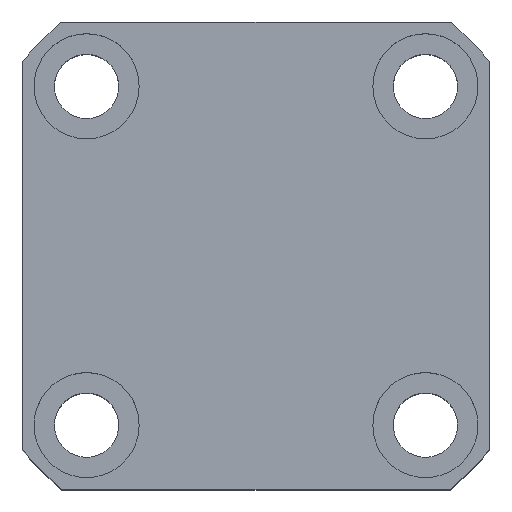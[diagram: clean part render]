
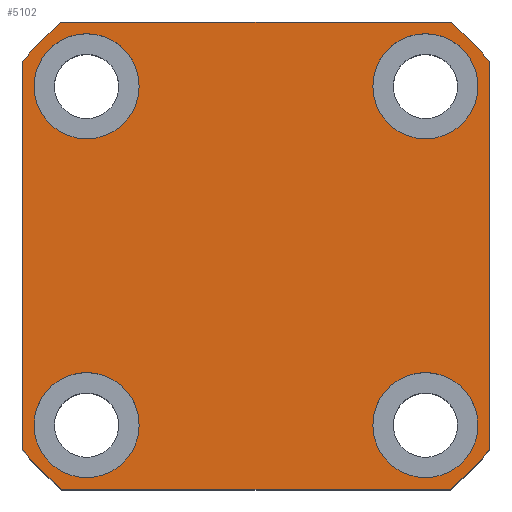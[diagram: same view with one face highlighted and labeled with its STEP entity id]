
A CAD part, top view. The second image highlights one B-rep face of the part: STEP entity #5102.
In plain terms, the highlighted planar face has unit normal (0, 0, 1).
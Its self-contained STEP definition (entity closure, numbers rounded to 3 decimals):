
#25 = DIRECTION ( 'NONE',  ( 0., 0., 1. ) ) ;
#72 = CARTESIAN_POINT ( 'NONE',  ( 29., 29., 32.5 ) ) ;
#146 = CARTESIAN_POINT ( 'NONE',  ( -38., -29., 32.5 ) ) ;
#164 = AXIS2_PLACEMENT_3D ( 'NONE', #8882, #2214, #3875 ) ;
#201 = CIRCLE ( 'NONE', #9797, 52. ) ;
#247 = VERTEX_POINT ( 'NONE', #7543 ) ;
#341 = DIRECTION ( 'NONE',  ( 1., 0., 0. ) ) ;
#350 = EDGE_LOOP ( 'NONE', ( #2302, #2135 ) ) ;
#366 = CARTESIAN_POINT ( 'NONE',  ( -20., 29., 32.5 ) ) ;
#566 = EDGE_CURVE ( 'NONE', #3537, #9563, #4208, .T. ) ;
#580 = FACE_OUTER_BOUND ( 'NONE', #902, .T. ) ;
#645 = ORIENTED_EDGE ( 'NONE', *, *, #4979, .F. ) ;
#663 = DIRECTION ( 'NONE',  ( 0., 0., 1. ) ) ;
#699 = LINE ( 'NONE', #4906, #8307 ) ;
#712 = DIRECTION ( 'NONE',  ( 0., 0., 1. ) ) ;
#727 = DIRECTION ( 'NONE',  ( -1., 0., 0. ) ) ;
#752 = DIRECTION ( 'NONE',  ( 1., 0., 0. ) ) ;
#831 = CIRCLE ( 'NONE', #8447, 9. ) ;
#902 = EDGE_LOOP ( 'NONE', ( #10343, #8073, #5430, #5608, #8731, #1014, #4810, #7145 ) ) ;
#931 = CARTESIAN_POINT ( 'NONE',  ( 40., 33.226, 32.5 ) ) ;
#975 = CARTESIAN_POINT ( 'NONE',  ( -33.226, -40., 32.5 ) ) ;
#980 = LINE ( 'NONE', #5863, #4106 ) ;
#1014 = ORIENTED_EDGE ( 'NONE', *, *, #5135, .T. ) ;
#1136 = AXIS2_PLACEMENT_3D ( 'NONE', #8025, #4725, #752 ) ;
#1156 = VERTEX_POINT ( 'NONE', #10141 ) ;
#1204 = DIRECTION ( 'NONE',  ( 1., 0., 0. ) ) ;
#1206 = CIRCLE ( 'NONE', #164, 52. ) ;
#1293 = CARTESIAN_POINT ( 'NONE',  ( 0., 0., 32.5 ) ) ;
#1323 = DIRECTION ( 'NONE',  ( 0., 0., 1. ) ) ;
#1443 = EDGE_LOOP ( 'NONE', ( #4940, #7811 ) ) ;
#1508 = AXIS2_PLACEMENT_3D ( 'NONE', #6643, #25, #8300 ) ;
#1610 = CARTESIAN_POINT ( 'NONE',  ( -40., -33.226, 32.5 ) ) ;
#1633 = LINE ( 'NONE', #7615, #8055 ) ;
#1683 = DIRECTION ( 'NONE',  ( 1., 0., 0. ) ) ;
#1723 = AXIS2_PLACEMENT_3D ( 'NONE', #8483, #3353, #7556 ) ;
#1836 = VERTEX_POINT ( 'NONE', #931 ) ;
#2075 = EDGE_CURVE ( 'NONE', #6904, #7588, #1206, .T. ) ;
#2135 = ORIENTED_EDGE ( 'NONE', *, *, #4802, .F. ) ;
#2214 = DIRECTION ( 'NONE',  ( 0., 0., 1. ) ) ;
#2228 = CARTESIAN_POINT ( 'NONE',  ( 38., 29., 32.5 ) ) ;
#2247 = CIRCLE ( 'NONE', #3734, 52. ) ;
#2261 = DIRECTION ( 'NONE',  ( 1., 0., 0. ) ) ;
#2302 = ORIENTED_EDGE ( 'NONE', *, *, #6295, .F. ) ;
#2360 = EDGE_CURVE ( 'NONE', #3595, #3359, #3292, .T. ) ;
#2484 = VERTEX_POINT ( 'NONE', #975 ) ;
#2521 = DIRECTION ( 'NONE',  ( 0., 1., 0. ) ) ;
#2808 = FACE_BOUND ( 'NONE', #350, .T. ) ;
#2946 = EDGE_CURVE ( 'NONE', #3257, #247, #5797, .T. ) ;
#3139 = CARTESIAN_POINT ( 'NONE',  ( -29., 29., 32.5 ) ) ;
#3257 = VERTEX_POINT ( 'NONE', #146 ) ;
#3292 = CIRCLE ( 'NONE', #1136, 9. ) ;
#3344 = CIRCLE ( 'NONE', #1723, 9. ) ;
#3353 = DIRECTION ( 'NONE',  ( 0., 0., 1. ) ) ;
#3359 = VERTEX_POINT ( 'NONE', #7938 ) ;
#3392 = CARTESIAN_POINT ( 'NONE',  ( -29., -29., 32.5 ) ) ;
#3438 = CIRCLE ( 'NONE', #7187, 9. ) ;
#3537 = VERTEX_POINT ( 'NONE', #8887 ) ;
#3595 = VERTEX_POINT ( 'NONE', #3957 ) ;
#3716 = EDGE_CURVE ( 'NONE', #1836, #6675, #8460, .T. ) ;
#3734 = AXIS2_PLACEMENT_3D ( 'NONE', #9701, #1323, #10532 ) ;
#3875 = DIRECTION ( 'NONE',  ( 1., 0., 0. ) ) ;
#3957 = CARTESIAN_POINT ( 'NONE',  ( 38., -29., 32.5 ) ) ;
#4054 = CARTESIAN_POINT ( 'NONE',  ( -33.226, 40., 32.5 ) ) ;
#4106 = VECTOR ( 'NONE', #2521, 1000. ) ;
#4155 = DIRECTION ( 'NONE',  ( 0., 0., 1. ) ) ;
#4156 = DIRECTION ( 'NONE',  ( 1., 0., 0. ) ) ;
#4157 = ORIENTED_EDGE ( 'NONE', *, *, #4983, .F. ) ;
#4208 = CIRCLE ( 'NONE', #7081, 9. ) ;
#4287 = CARTESIAN_POINT ( 'NONE',  ( 29., 29., 32.5 ) ) ;
#4323 = DIRECTION ( 'NONE',  ( 1., 0., 0. ) ) ;
#4434 = AXIS2_PLACEMENT_3D ( 'NONE', #3392, #10077, #10041 ) ;
#4725 = DIRECTION ( 'NONE',  ( 0., 0., 1. ) ) ;
#4802 = EDGE_CURVE ( 'NONE', #5008, #9772, #6331, .T. ) ;
#4810 = ORIENTED_EDGE ( 'NONE', *, *, #3716, .T. ) ;
#4906 = CARTESIAN_POINT ( 'NONE',  ( -33.226, 40., 32.5 ) ) ;
#4940 = ORIENTED_EDGE ( 'NONE', *, *, #2360, .F. ) ;
#4979 = EDGE_CURVE ( 'NONE', #9563, #3537, #831, .T. ) ;
#4983 = EDGE_CURVE ( 'NONE', #247, #3257, #6990, .T. ) ;
#4987 = EDGE_LOOP ( 'NONE', ( #4157, #7056 ) ) ;
#4994 = CARTESIAN_POINT ( 'NONE',  ( -29., 29., 32.5 ) ) ;
#5008 = VERTEX_POINT ( 'NONE', #9213 ) ;
#5071 = DIRECTION ( 'NONE',  ( 0., 0., 1. ) ) ;
#5102 = ADVANCED_FACE ( 'NONE', ( #8310, #6063, #9489, #2808, #580 ), #5743, .T. ) ;
#5135 = EDGE_CURVE ( 'NONE', #7588, #1836, #980, .T. ) ;
#5294 = VERTEX_POINT ( 'NONE', #4054 ) ;
#5334 = EDGE_CURVE ( 'NONE', #1156, #9263, #1633, .T. ) ;
#5414 = DIRECTION ( 'NONE',  ( 0., 0., 1. ) ) ;
#5430 = ORIENTED_EDGE ( 'NONE', *, *, #5508, .T. ) ;
#5508 = EDGE_CURVE ( 'NONE', #9263, #2484, #2247, .T. ) ;
#5608 = ORIENTED_EDGE ( 'NONE', *, *, #9661, .T. ) ;
#5719 = EDGE_LOOP ( 'NONE', ( #645, #9047 ) ) ;
#5743 = PLANE ( 'NONE',  #1508 ) ;
#5773 = DIRECTION ( 'NONE',  ( 0., 0., 1. ) ) ;
#5797 = CIRCLE ( 'NONE', #10096, 9. ) ;
#5863 = CARTESIAN_POINT ( 'NONE',  ( 40., 33.226, 32.5 ) ) ;
#6063 = FACE_BOUND ( 'NONE', #4987, .T. ) ;
#6269 = CARTESIAN_POINT ( 'NONE',  ( -33.226, -40., 32.5 ) ) ;
#6295 = EDGE_CURVE ( 'NONE', #9772, #5008, #3438, .T. ) ;
#6331 = CIRCLE ( 'NONE', #10261, 9. ) ;
#6643 = CARTESIAN_POINT ( 'NONE',  ( 0., 0., 32.5 ) ) ;
#6675 = VERTEX_POINT ( 'NONE', #9057 ) ;
#6689 = CARTESIAN_POINT ( 'NONE',  ( 33.226, -40., 32.5 ) ) ;
#6710 = CARTESIAN_POINT ( 'NONE',  ( 40., -33.226, 32.5 ) ) ;
#6803 = DIRECTION ( 'NONE',  ( 0., -1., 0. ) ) ;
#6904 = VERTEX_POINT ( 'NONE', #6689 ) ;
#6990 = CIRCLE ( 'NONE', #4434, 9. ) ;
#7056 = ORIENTED_EDGE ( 'NONE', *, *, #2946, .F. ) ;
#7081 = AXIS2_PLACEMENT_3D ( 'NONE', #3139, #712, #2261 ) ;
#7145 = ORIENTED_EDGE ( 'NONE', *, *, #8753, .T. ) ;
#7187 = AXIS2_PLACEMENT_3D ( 'NONE', #4287, #5071, #4323 ) ;
#7472 = EDGE_CURVE ( 'NONE', #3359, #3595, #3344, .T. ) ;
#7543 = CARTESIAN_POINT ( 'NONE',  ( -20., -29., 32.5 ) ) ;
#7556 = DIRECTION ( 'NONE',  ( 1., 0., 0. ) ) ;
#7588 = VERTEX_POINT ( 'NONE', #6710 ) ;
#7615 = CARTESIAN_POINT ( 'NONE',  ( -40., 33.226, 32.5 ) ) ;
#7653 = DIRECTION ( 'NONE',  ( 0., 0., 1. ) ) ;
#7811 = ORIENTED_EDGE ( 'NONE', *, *, #7472, .F. ) ;
#7841 = EDGE_CURVE ( 'NONE', #5294, #1156, #201, .T. ) ;
#7938 = CARTESIAN_POINT ( 'NONE',  ( 20., -29., 32.5 ) ) ;
#7956 = AXIS2_PLACEMENT_3D ( 'NONE', #1293, #5414, #341 ) ;
#8025 = CARTESIAN_POINT ( 'NONE',  ( 29., -29., 32.5 ) ) ;
#8055 = VECTOR ( 'NONE', #6803, 1000. ) ;
#8073 = ORIENTED_EDGE ( 'NONE', *, *, #5334, .T. ) ;
#8298 = VECTOR ( 'NONE', #1204, 1000. ) ;
#8300 = DIRECTION ( 'NONE',  ( 1., 0., 0. ) ) ;
#8307 = VECTOR ( 'NONE', #727, 1000. ) ;
#8310 = FACE_BOUND ( 'NONE', #1443, .T. ) ;
#8406 = DIRECTION ( 'NONE',  ( 1., 0., 0. ) ) ;
#8447 = AXIS2_PLACEMENT_3D ( 'NONE', #4994, #5773, #8406 ) ;
#8460 = CIRCLE ( 'NONE', #7956, 52. ) ;
#8483 = CARTESIAN_POINT ( 'NONE',  ( 29., -29., 32.5 ) ) ;
#8564 = LINE ( 'NONE', #6269, #8298 ) ;
#8731 = ORIENTED_EDGE ( 'NONE', *, *, #2075, .T. ) ;
#8753 = EDGE_CURVE ( 'NONE', #6675, #5294, #699, .T. ) ;
#8882 = CARTESIAN_POINT ( 'NONE',  ( 0., 0., 32.5 ) ) ;
#8887 = CARTESIAN_POINT ( 'NONE',  ( -38., 29., 32.5 ) ) ;
#9047 = ORIENTED_EDGE ( 'NONE', *, *, #566, .F. ) ;
#9057 = CARTESIAN_POINT ( 'NONE',  ( 33.226, 40., 32.5 ) ) ;
#9061 = DIRECTION ( 'NONE',  ( 1., 0., 0. ) ) ;
#9213 = CARTESIAN_POINT ( 'NONE',  ( 20., 29., 32.5 ) ) ;
#9263 = VERTEX_POINT ( 'NONE', #1610 ) ;
#9489 = FACE_BOUND ( 'NONE', #5719, .T. ) ;
#9563 = VERTEX_POINT ( 'NONE', #366 ) ;
#9661 = EDGE_CURVE ( 'NONE', #2484, #6904, #8564, .T. ) ;
#9701 = CARTESIAN_POINT ( 'NONE',  ( 0., 0., 32.5 ) ) ;
#9772 = VERTEX_POINT ( 'NONE', #2228 ) ;
#9792 = CARTESIAN_POINT ( 'NONE',  ( 0., 0., 32.5 ) ) ;
#9797 = AXIS2_PLACEMENT_3D ( 'NONE', #9792, #663, #9061 ) ;
#9981 = CARTESIAN_POINT ( 'NONE',  ( -29., -29., 32.5 ) ) ;
#10041 = DIRECTION ( 'NONE',  ( 1., 0., 0. ) ) ;
#10077 = DIRECTION ( 'NONE',  ( 0., 0., 1. ) ) ;
#10096 = AXIS2_PLACEMENT_3D ( 'NONE', #9981, #4155, #1683 ) ;
#10141 = CARTESIAN_POINT ( 'NONE',  ( -40., 33.226, 32.5 ) ) ;
#10261 = AXIS2_PLACEMENT_3D ( 'NONE', #72, #7653, #4156 ) ;
#10343 = ORIENTED_EDGE ( 'NONE', *, *, #7841, .T. ) ;
#10532 = DIRECTION ( 'NONE',  ( 1., 0., 0. ) ) ;
